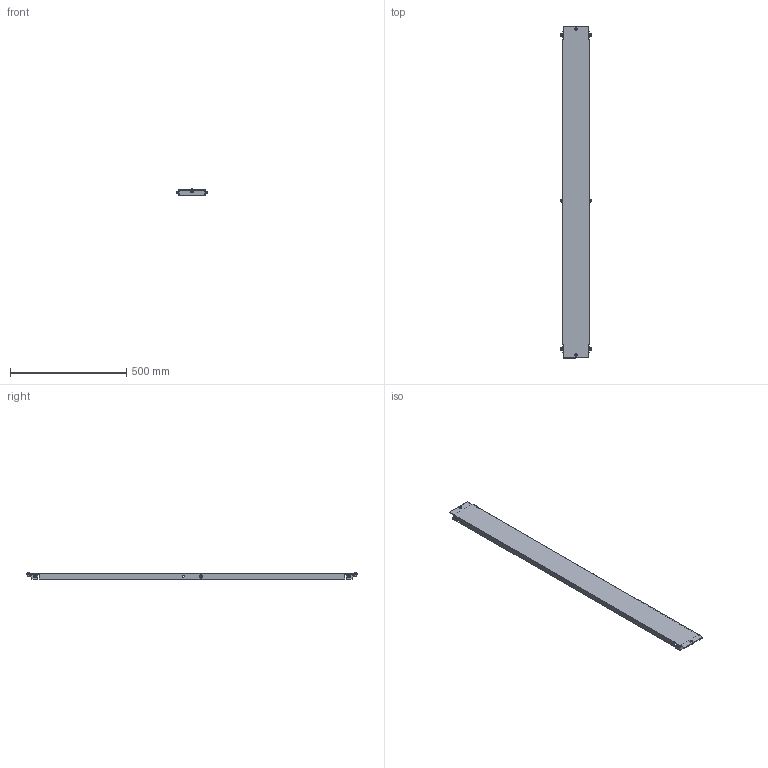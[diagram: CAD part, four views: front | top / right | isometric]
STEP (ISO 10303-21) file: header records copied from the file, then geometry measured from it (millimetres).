
FILE_DESCRIPTION(('Open CASCADE Model'),'2;1');
FILE_NAME('Open CASCADE Shape Model','2025-02-13T17:15:42',('Author'),( 'Open CASCADE'),'Open CASCADE STEP processor 7.8','Open CASCADE 7.8' ,'Unknown');
FILE_SCHEMA(('AUTOMOTIVE_DESIGN { 1 0 10303 214 1 1 1 1 }'));
Length unit declared in the file: millimetre
Products named in the file (7): Compound1; Solid1; Solid2; Solid3; Solid4; Solid5; Solid6
Assembly tree (19 placements, depth 2):
  Compound1
    Solid1
    Solid2  x2
    Solid3  x6
    Solid4  x2
    Solid5  x6
    Solid6  x2
Bounding box: 132 x 1425 x 28.9 mm (x, y, z)
Volume: 582230.2 mm3; surface area: 479636.4 mm2
Topology: 19 solids, 19 shells, 1008 faces, 2765 edges, 1793 vertices
Faces by surface type: plane 550, cylinder 312, cone 80, bspline 48, torus 16, sphere 2
Full cylindrical faces by diameter (mm): 4.917 x6, 5 x2, 6 x10, 6.6 x6, 7 x4, 8 x6, 11 x2
Entity records: 8694 total; most frequent: CARTESIAN_POINT 2254, ORIENTED_EDGE 1378, DIRECTION 1236, EDGE_CURVE 689, VERTEX_POINT 448, AXIS2_PLACEMENT_3D 424, LINE 388, VECTOR 388
